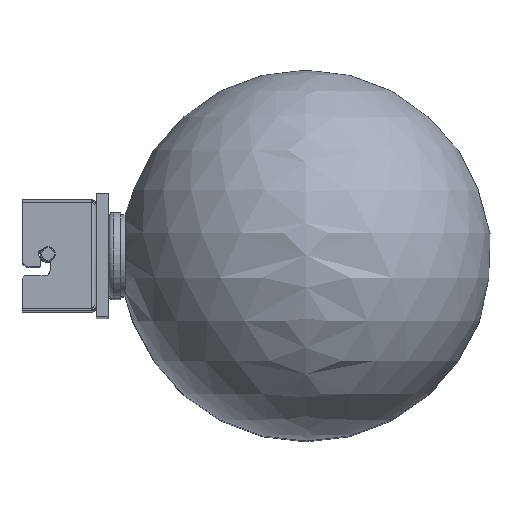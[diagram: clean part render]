
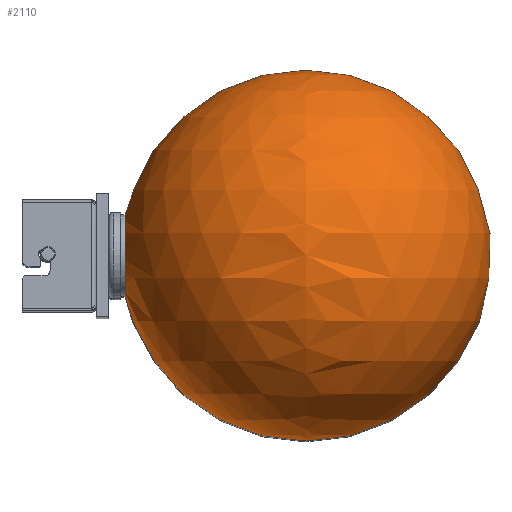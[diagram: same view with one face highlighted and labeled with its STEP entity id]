
A CAD part, top view. The second image highlights one B-rep face of the part: STEP entity #2110.
In plain terms, the highlighted spherical face has radius 75 mm.
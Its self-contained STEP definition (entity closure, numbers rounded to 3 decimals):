
#43=FACE_BOUND('',#717,.T.);
#53=SPHERICAL_SURFACE('',#2344,75.);
#80=B_SPLINE_CURVE_WITH_KNOTS('',3,(#3968,#3969,#3970,#3971,#3972,#3973,
#3974,#3975,#3976,#3977,#3978,#3979,#3980,#3981,#3982,#3983,#3984,#3985,
#3986,#3987,#3988,#3989,#3990,#3991,#3992,#3993,#3994,#3995,#3996,#3997,
#3998,#3999,#4000,#4001),.UNSPECIFIED.,.F.,.F.,(4,2,2,2,2,2,2,2,2,2,2,2,
2,2,2,2,4),(0.,0.311,0.622,0.932,1.243,
1.554,1.865,2.175,2.486,2.797,
3.108,3.418,3.729,4.04,4.351,
4.662,4.972),.UNSPECIFIED.);
#81=B_SPLINE_CURVE_WITH_KNOTS('',3,(#4002,#4003,#4004,#4005,#4006,#4007,
#4008,#4009,#4010,#4011,#4012,#4013,#4014,#4015,#4016,#4017,#4018,#4019,
#4020,#4021,#4022,#4023,#4024,#4025,#4026,#4027,#4028,#4029,#4030,#4031,
#4032,#4033,#4034,#4035),.UNSPECIFIED.,.F.,.F.,(4,2,2,2,2,2,2,2,2,2,2,2,
2,2,2,2,4),(4.972,5.283,5.594,5.905,
6.215,6.526,6.837,7.148,7.458,
7.769,8.08,8.391,8.701,9.012,
9.323,9.634,9.945),.UNSPECIFIED.);
#575=FACE_OUTER_BOUND('',#716,.T.);
#716=EDGE_LOOP('',(#1861,#1862));
#717=EDGE_LOOP('',(#1863,#1864));
#826=CIRCLE('',#2345,75.);
#1010=VERTEX_POINT('',#3963);
#1011=VERTEX_POINT('',#3964);
#1012=VERTEX_POINT('',#3966);
#1013=VERTEX_POINT('',#3967);
#1300=EDGE_CURVE('',#1010,#1011,#826,.T.);
#1301=EDGE_CURVE('',#1012,#1013,#80,.T.);
#1302=EDGE_CURVE('',#1013,#1012,#81,.T.);
#1861=ORIENTED_EDGE('',*,*,#1300,.T.);
#1862=ORIENTED_EDGE('',*,*,#1300,.F.);
#1863=ORIENTED_EDGE('',*,*,#1301,.T.);
#1864=ORIENTED_EDGE('',*,*,#1302,.T.);
#2110=ADVANCED_FACE('',(#575,#43),#53,.T.);
#2344=AXIS2_PLACEMENT_3D('',#3962,#2917,#2918);
#2345=AXIS2_PLACEMENT_3D('',#3965,#2919,#2920);
#2917=DIRECTION('center_axis',(0.,1.,0.));
#2918=DIRECTION('ref_axis',(0.,0.,-1.));
#2919=DIRECTION('center_axis',(1.,0.,0.));
#2920=DIRECTION('ref_axis',(0.,0.,1.));
#3962=CARTESIAN_POINT('Origin',(114.911,0.,
325.));
#3963=CARTESIAN_POINT('',(114.911,75.,325.));
#3964=CARTESIAN_POINT('',(114.911,-75.,325.));
#3965=CARTESIAN_POINT('Origin',(114.911,0.,
325.));
#3966=CARTESIAN_POINT('',(41.77,8.25,310.6));
#3967=CARTESIAN_POINT('',(41.727,-8.25,339.179));
#3968=CARTESIAN_POINT('Ctrl Pts',(41.77,8.25,310.6));
#3969=CARTESIAN_POINT('Ctrl Pts',(41.77,9.147,311.118));
#3970=CARTESIAN_POINT('Ctrl Pts',(41.769,10.025,311.739));
#3971=CARTESIAN_POINT('Ctrl Pts',(41.766,11.662,313.166));
#3972=CARTESIAN_POINT('Ctrl Pts',(41.765,12.421,313.972));
#3973=CARTESIAN_POINT('Ctrl Pts',(41.763,13.76,315.717));
#3974=CARTESIAN_POINT('Ctrl Pts',(41.761,14.342,316.659));
#3975=CARTESIAN_POINT('Ctrl Pts',(41.758,15.297,318.609));
#3976=CARTESIAN_POINT('Ctrl Pts',(41.757,15.67,319.618));
#3977=CARTESIAN_POINT('Ctrl Pts',(41.754,16.206,321.619));
#3978=CARTESIAN_POINT('Ctrl Pts',(41.752,16.387,322.68));
#3979=CARTESIAN_POINT('Ctrl Pts',(41.749,16.536,324.846));
#3980=CARTESIAN_POINT('Ctrl Pts',(41.747,16.502,325.952));
#3981=CARTESIAN_POINT('Ctrl Pts',(41.744,16.215,328.134));
#3982=CARTESIAN_POINT('Ctrl Pts',(41.742,15.961,329.211));
#3983=CARTESIAN_POINT('Ctrl Pts',(41.739,15.257,331.265));
#3984=CARTESIAN_POINT('Ctrl Pts',(41.738,14.807,332.242));
#3985=CARTESIAN_POINT('Ctrl Pts',(41.735,13.771,334.036));
#3986=CARTESIAN_POINT('Ctrl Pts',(41.733,13.15,334.915));
#3987=CARTESIAN_POINT('Ctrl Pts',(41.731,11.723,336.551));
#3988=CARTESIAN_POINT('Ctrl Pts',(41.73,10.917,337.31));
#3989=CARTESIAN_POINT('Ctrl Pts',(41.728,9.172,338.649));
#3990=CARTESIAN_POINT('Ctrl Pts',(41.727,8.231,339.231));
#3991=CARTESIAN_POINT('Ctrl Pts',(41.726,6.28,340.186));
#3992=CARTESIAN_POINT('Ctrl Pts',(41.725,5.271,340.559));
#3993=CARTESIAN_POINT('Ctrl Pts',(41.724,3.27,341.095));
#3994=CARTESIAN_POINT('Ctrl Pts',(41.724,2.209,341.277));
#3995=CARTESIAN_POINT('Ctrl Pts',(41.724,0.043,341.425));
#3996=CARTESIAN_POINT('Ctrl Pts',(41.724,-1.063,341.392));
#3997=CARTESIAN_POINT('Ctrl Pts',(41.724,-3.244,341.105));
#3998=CARTESIAN_POINT('Ctrl Pts',(41.725,-4.321,340.85));
#3999=CARTESIAN_POINT('Ctrl Pts',(41.726,-6.376,340.146));
#4000=CARTESIAN_POINT('Ctrl Pts',(41.726,-7.353,339.697));
#4001=CARTESIAN_POINT('Ctrl Pts',(41.727,-8.25,339.179));
#4002=CARTESIAN_POINT('Ctrl Pts',(41.727,-8.25,339.179));
#4003=CARTESIAN_POINT('Ctrl Pts',(41.728,-9.147,338.661));
#4004=CARTESIAN_POINT('Ctrl Pts',(41.729,-10.025,338.039));
#4005=CARTESIAN_POINT('Ctrl Pts',(41.731,-11.662,336.612));
#4006=CARTESIAN_POINT('Ctrl Pts',(41.732,-12.421,335.807));
#4007=CARTESIAN_POINT('Ctrl Pts',(41.735,-13.76,334.061));
#4008=CARTESIAN_POINT('Ctrl Pts',(41.736,-14.342,333.12));
#4009=CARTESIAN_POINT('Ctrl Pts',(41.739,-15.297,331.17));
#4010=CARTESIAN_POINT('Ctrl Pts',(41.741,-15.67,330.16));
#4011=CARTESIAN_POINT('Ctrl Pts',(41.744,-16.206,328.159));
#4012=CARTESIAN_POINT('Ctrl Pts',(41.745,-16.387,327.099));
#4013=CARTESIAN_POINT('Ctrl Pts',(41.749,-16.536,324.932));
#4014=CARTESIAN_POINT('Ctrl Pts',(41.75,-16.502,323.826));
#4015=CARTESIAN_POINT('Ctrl Pts',(41.754,-16.215,321.645));
#4016=CARTESIAN_POINT('Ctrl Pts',(41.755,-15.961,320.568));
#4017=CARTESIAN_POINT('Ctrl Pts',(41.758,-15.257,318.514));
#4018=CARTESIAN_POINT('Ctrl Pts',(41.76,-14.807,317.536));
#4019=CARTESIAN_POINT('Ctrl Pts',(41.763,-13.771,315.742));
#4020=CARTESIAN_POINT('Ctrl Pts',(41.764,-13.15,314.864));
#4021=CARTESIAN_POINT('Ctrl Pts',(41.766,-11.723,313.227));
#4022=CARTESIAN_POINT('Ctrl Pts',(41.767,-10.917,312.469));
#4023=CARTESIAN_POINT('Ctrl Pts',(41.769,-9.172,311.129));
#4024=CARTESIAN_POINT('Ctrl Pts',(41.77,-8.231,310.548));
#4025=CARTESIAN_POINT('Ctrl Pts',(41.772,-6.28,309.593));
#4026=CARTESIAN_POINT('Ctrl Pts',(41.772,-5.271,309.22));
#4027=CARTESIAN_POINT('Ctrl Pts',(41.773,-3.27,308.683));
#4028=CARTESIAN_POINT('Ctrl Pts',(41.773,-2.209,308.502));
#4029=CARTESIAN_POINT('Ctrl Pts',(41.774,-0.043,308.354));
#4030=CARTESIAN_POINT('Ctrl Pts',(41.774,1.063,308.387));
#4031=CARTESIAN_POINT('Ctrl Pts',(41.773,3.244,308.674));
#4032=CARTESIAN_POINT('Ctrl Pts',(41.773,4.321,308.928));
#4033=CARTESIAN_POINT('Ctrl Pts',(41.772,6.376,309.632));
#4034=CARTESIAN_POINT('Ctrl Pts',(41.771,7.353,310.082));
#4035=CARTESIAN_POINT('Ctrl Pts',(41.77,8.25,310.6));
